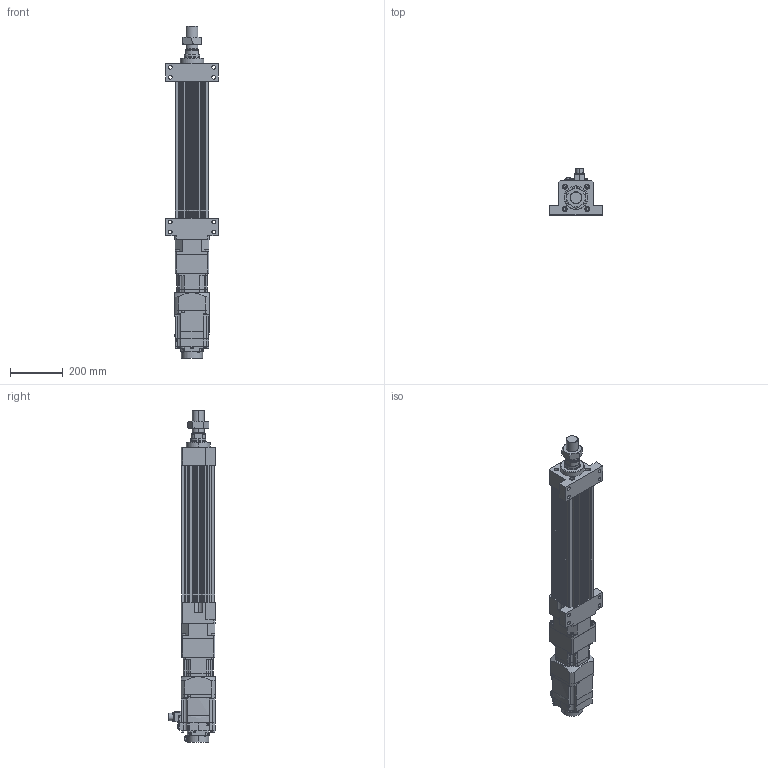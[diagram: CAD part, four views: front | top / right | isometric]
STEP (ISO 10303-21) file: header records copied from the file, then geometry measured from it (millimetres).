
FILE_DESCRIPTION (( 'STEP AP203' ), '1' );
FILE_NAME ('HES130NS(FS)(HS)-S300-W015G00-M-FFB.STEP', '2026-06-10T06:15:06', ( 'tms' ), ( '' ), 'SwSTEP 2.0', 'SolidWorks 2013', '' );
FILE_SCHEMA (( 'CONFIG_CONTROL_DESIGN' ));
Length unit declared in the file: millimetre
Products named in the file (8): AB1152; HES130-S-G120; HG-SR152B; HES130NS(FS)(HS)-S300-W015G00-M-FFB; M45X1.5P; HES130-M-ROD-300; AB1151; HES130-FFB-300
Assembly tree (7 placements, depth 2):
  HES130NS(FS)(HS)-S300-W015G00-M-FFB
    HES130-FFB-300
    HES130-M-ROD-300
    M45X1.5P
    HES130-S-G120
    AB1151
    AB1152
    HG-SR152B
Bounding box: 200 x 177.49 x 1262 mm (x, y, z)
Volume: 10235733.3 mm3; surface area: 1272575.7 mm2
Topology: 5 solids, 12 shells, 1246 faces, 3164 edges, 2063 vertices
Faces by surface type: plane 586, cylinder 572, cone 74, bspline 10, torus 4
Entity records: 39589 total; most frequent: CARTESIAN_POINT 7596, DIRECTION 6833, ORIENTED_EDGE 6300, EDGE_CURVE 3160, AXIS2_PLACEMENT_3D 2521, VERTEX_POINT 2063, VECTOR 1791, LINE 1791
